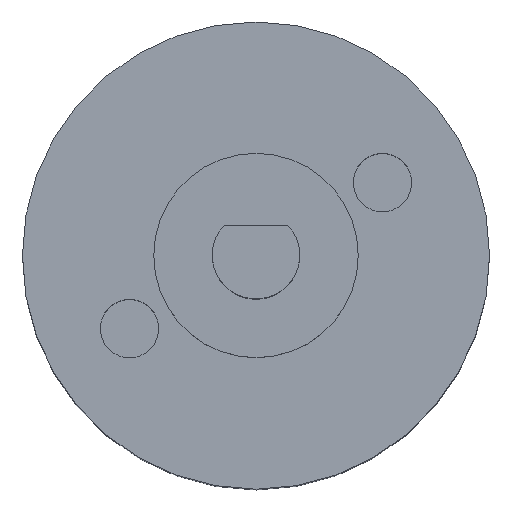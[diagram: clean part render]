
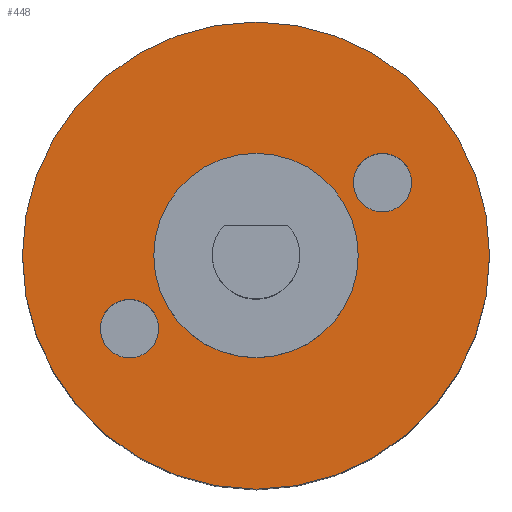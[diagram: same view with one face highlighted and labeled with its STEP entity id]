
A CAD part, top view. The second image highlights one B-rep face of the part: STEP entity #448.
In plain terms, the highlighted planar face has unit normal (0, 0, 1).
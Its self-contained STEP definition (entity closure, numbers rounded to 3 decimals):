
#19=FACE_BOUND('',#100,.T.);
#20=FACE_BOUND('',#101,.T.);
#21=FACE_BOUND('',#102,.T.);
#41=PLANE('',#507);
#68=FACE_OUTER_BOUND('',#99,.T.);
#99=EDGE_LOOP('',(#409,#410));
#100=EDGE_LOOP('',(#411));
#101=EDGE_LOOP('',(#412));
#102=EDGE_LOOP('',(#413,#414));
#183=CIRCLE('',#464,1.);
#185=CIRCLE('',#468,1.);
#195=CIRCLE('',#498,3.5);
#196=CIRCLE('',#499,3.5);
#197=CIRCLE('',#502,8.);
#198=CIRCLE('',#503,8.);
#201=VERTEX_POINT('',#642);
#203=VERTEX_POINT('',#649);
#235=VERTEX_POINT('',#748);
#236=VERTEX_POINT('',#750);
#237=VERTEX_POINT('',#755);
#238=VERTEX_POINT('',#756);
#241=EDGE_CURVE('',#201,#201,#183,.T.);
#244=EDGE_CURVE('',#203,#203,#185,.T.);
#292=EDGE_CURVE('',#236,#235,#195,.T.);
#293=EDGE_CURVE('',#235,#236,#196,.T.);
#294=EDGE_CURVE('',#237,#238,#197,.T.);
#295=EDGE_CURVE('',#238,#237,#198,.T.);
#409=ORIENTED_EDGE('',*,*,#294,.T.);
#410=ORIENTED_EDGE('',*,*,#295,.T.);
#411=ORIENTED_EDGE('',*,*,#241,.T.);
#412=ORIENTED_EDGE('',*,*,#244,.T.);
#413=ORIENTED_EDGE('',*,*,#292,.T.);
#414=ORIENTED_EDGE('',*,*,#293,.T.);
#448=ADVANCED_FACE('',(#68,#19,#20,#21),#41,.T.);
#464=AXIS2_PLACEMENT_3D('',#643,#512,#513);
#468=AXIS2_PLACEMENT_3D('',#650,#521,#522);
#498=AXIS2_PLACEMENT_3D('',#751,#619,#620);
#499=AXIS2_PLACEMENT_3D('',#752,#621,#622);
#502=AXIS2_PLACEMENT_3D('',#757,#627,#628);
#503=AXIS2_PLACEMENT_3D('',#758,#629,#630);
#507=AXIS2_PLACEMENT_3D('',#765,#638,#639);
#512=DIRECTION('center_axis',(0.,0.,-1.));
#513=DIRECTION('ref_axis',(1.,0.,0.));
#521=DIRECTION('center_axis',(0.,0.,-1.));
#522=DIRECTION('ref_axis',(1.,0.,0.));
#619=DIRECTION('center_axis',(0.,0.,-1.));
#620=DIRECTION('ref_axis',(1.,0.,0.));
#621=DIRECTION('center_axis',(0.,0.,-1.));
#622=DIRECTION('ref_axis',(1.,0.,0.));
#627=DIRECTION('center_axis',(0.,0.,1.));
#628=DIRECTION('ref_axis',(1.,0.,0.));
#629=DIRECTION('center_axis',(0.,0.,1.));
#630=DIRECTION('ref_axis',(1.,0.,0.));
#638=DIRECTION('center_axis',(0.,0.,1.));
#639=DIRECTION('ref_axis',(1.,0.,0.));
#642=CARTESIAN_POINT('',(3.33,2.5,15.5));
#643=CARTESIAN_POINT('Origin',(4.33,2.5,15.5));
#649=CARTESIAN_POINT('',(-5.33,-2.5,15.5));
#650=CARTESIAN_POINT('Origin',(-4.33,-2.5,15.5));
#748=CARTESIAN_POINT('',(-3.5,0.,15.5));
#750=CARTESIAN_POINT('',(3.5,0.,15.5));
#751=CARTESIAN_POINT('Origin',(0.,0.,
15.5));
#752=CARTESIAN_POINT('Origin',(0.,0.,
15.5));
#755=CARTESIAN_POINT('',(8.,0.,15.5));
#756=CARTESIAN_POINT('',(-8.,0.,15.5));
#757=CARTESIAN_POINT('Origin',(0.,0.,15.5));
#758=CARTESIAN_POINT('Origin',(0.,0.,15.5));
#765=CARTESIAN_POINT('Origin',(0.,0.,15.5));
